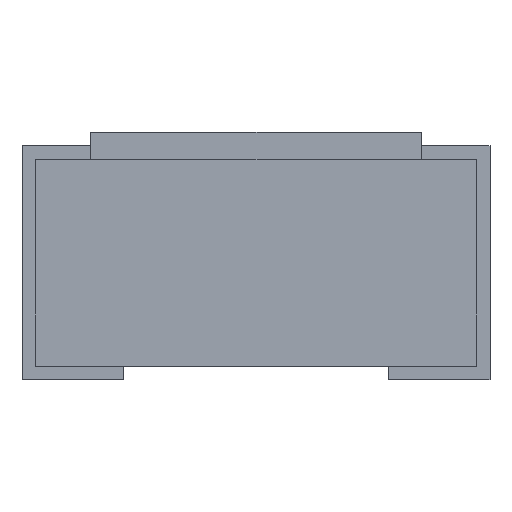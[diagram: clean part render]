
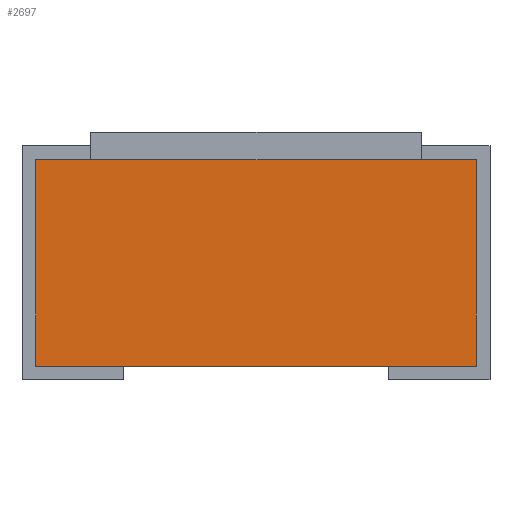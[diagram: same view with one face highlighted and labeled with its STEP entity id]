
A CAD part, left-side view. The second image highlights one B-rep face of the part: STEP entity #2697.
In plain terms, the highlighted planar face has unit normal (-1, 0, 0).
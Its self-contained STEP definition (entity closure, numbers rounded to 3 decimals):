
#2636 = CARTESIAN_POINT ( 'NONE',  ( -1.6, 0.8, 0.05 ) ) ;
#2637 = VERTEX_POINT ( 'NONE', #2636 ) ;
#2644 = CARTESIAN_POINT ( 'NONE',  ( -1.6, 0.8, 0.8 ) ) ;
#2645 = VERTEX_POINT ( 'NONE', #2644 ) ;
#2646 = CARTESIAN_POINT ( 'NONE',  ( -1.6, 0.8, 0.8 ) ) ;
#2647 = DIRECTION ( 'NONE',  ( 0., 0., -1. ) ) ;
#2648 = VECTOR ( 'NONE', #2647, 1000. ) ;
#2649 = LINE ( 'NONE', #2646, #2648 ) ;
#2650 = EDGE_CURVE ( 'NONE', #2645, #2637, #2649, .T. ) ;
#2667 = CARTESIAN_POINT ( 'NONE',  ( -1.6, -0.8, 0.05 ) ) ;
#2668 = VERTEX_POINT ( 'NONE', #2667 ) ;
#2669 = CARTESIAN_POINT ( 'NONE',  ( -1.6, -0.8, 0.05 ) ) ;
#2670 = DIRECTION ( 'NONE',  ( 0., -1., 0. ) ) ;
#2671 = VECTOR ( 'NONE', #2670, 1000. ) ;
#2672 = LINE ( 'NONE', #2669, #2671 ) ;
#2673 = EDGE_CURVE ( 'NONE', #2637, #2668, #2672, .T. ) ;
#2674 = ORIENTED_EDGE ( 'NONE', *, *, #2673, .T. ) ;
#2675 = CARTESIAN_POINT ( 'NONE',  ( -1.6, -0.8, 0.8 ) ) ;
#2676 = VERTEX_POINT ( 'NONE', #2675 ) ;
#2677 = CARTESIAN_POINT ( 'NONE',  ( -1.6, -0.8, 0.8 ) ) ;
#2678 = DIRECTION ( 'NONE',  ( 0., 0., -1. ) ) ;
#2679 = VECTOR ( 'NONE', #2678, 1000. ) ;
#2680 = LINE ( 'NONE', #2677, #2679 ) ;
#2681 = EDGE_CURVE ( 'NONE', #2676, #2668, #2680, .T. ) ;
#2682 = ORIENTED_EDGE ( 'NONE', *, *, #2681, .F. ) ;
#2683 = CARTESIAN_POINT ( 'NONE',  ( -1.6, -0.8, 0.8 ) ) ;
#2684 = DIRECTION ( 'NONE',  ( 0., -1., 0. ) ) ;
#2685 = VECTOR ( 'NONE', #2684, 1000. ) ;
#2686 = LINE ( 'NONE', #2683, #2685 ) ;
#2687 = EDGE_CURVE ( 'NONE', #2645, #2676, #2686, .T. ) ;
#2688 = ORIENTED_EDGE ( 'NONE', *, *, #2687, .F. ) ;
#2689 = ORIENTED_EDGE ( 'NONE', *, *, #2650, .T. ) ;
#2690 = EDGE_LOOP ( 'NONE', ( #2674, #2682, #2688, #2689 ) ) ;
#2691 = FACE_OUTER_BOUND ( 'NONE', #2690, .T. ) ;
#2692 = CARTESIAN_POINT ( 'NONE',  ( -1.6, -0.8, 0.8 ) ) ;
#2693 = DIRECTION ( 'NONE',  ( 1., 0., 0. ) ) ;
#2694 = DIRECTION ( 'NONE',  ( 0., 1., 0. ) ) ;
#2695 = AXIS2_PLACEMENT_3D ( 'NONE', #2692, #2693, #2694 ) ;
#2696 = PLANE ( 'NONE', #2695 ) ;
#2697 = ADVANCED_FACE ( 'NONE', ( #2691 ), #2696, .F. ) ;
